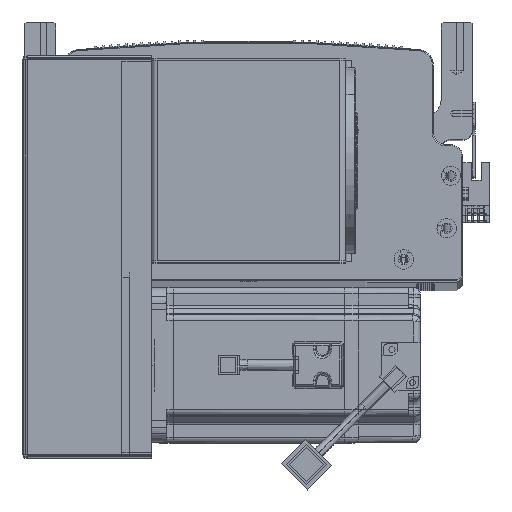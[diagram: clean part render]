
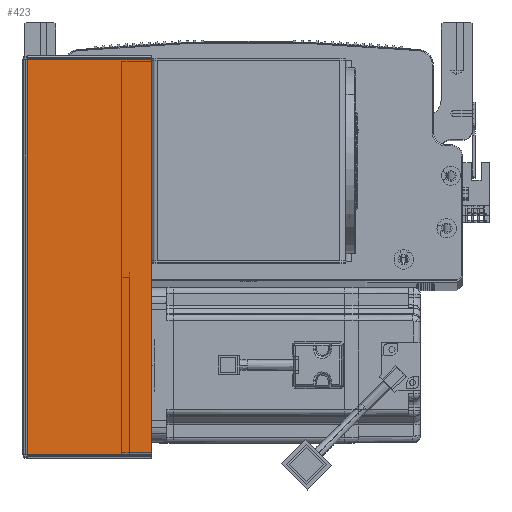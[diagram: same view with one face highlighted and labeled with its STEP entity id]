
A CAD part, top view. The second image highlights one B-rep face of the part: STEP entity #423.
In plain terms, the highlighted planar face has unit normal (0, 0, 1) as drawn and (0, -1, 0) by its records, which use the part's own axes.
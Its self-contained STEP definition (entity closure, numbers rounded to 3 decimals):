
#423 = ADVANCED_FACE ( 'NONE', ( #34897 ), #26515, .F. ) ;
#2393 = DIRECTION ( 'NONE',  ( 1., 0., 0. ) ) ;
#3172 = DIRECTION ( 'NONE',  ( 0., 0., 1. ) ) ;
#3579 = AXIS2_PLACEMENT_3D ( 'NONE', #62961, #54730, #62045 ) ;
#4257 = CARTESIAN_POINT ( 'NONE',  ( 64.5, -1.5, -203.293 ) ) ;
#4382 = ORIENTED_EDGE ( 'NONE', *, *, #17354, .F. ) ;
#5321 = EDGE_LOOP ( 'NONE', ( #4382, #34869, #53869, #47908 ) ) ;
#6842 = CARTESIAN_POINT ( 'NONE',  ( 0.737, -1.5, -203.293 ) ) ;
#6866 = EDGE_CURVE ( 'NONE', #77926, #84701, #52098, .T. ) ;
#12136 = CARTESIAN_POINT ( 'NONE',  ( 64.5, -1.5, -0.707 ) ) ;
#17354 = EDGE_CURVE ( 'NONE', #77926, #48294, #50203, .T. ) ;
#17936 = LINE ( 'NONE', #52354, #67207 ) ;
#23392 = EDGE_CURVE ( 'NONE', #84701, #39401, #17936, .T. ) ;
#24911 = CARTESIAN_POINT ( 'NONE',  ( 0.737, -1.5, 0. ) ) ;
#26515 = PLANE ( 'NONE',  #3579 ) ;
#27310 = VECTOR ( 'NONE', #91151, 1000. ) ;
#29969 = LINE ( 'NONE', #31070, #51791 ) ;
#31070 = CARTESIAN_POINT ( 'NONE',  ( 0., -1.5, -0.707 ) ) ;
#32574 = VECTOR ( 'NONE', #2393, 1000. ) ;
#33835 = CARTESIAN_POINT ( 'NONE',  ( 0., -1.5, -203.293 ) ) ;
#34869 = ORIENTED_EDGE ( 'NONE', *, *, #6866, .T. ) ;
#34897 = FACE_OUTER_BOUND ( 'NONE', #5321, .T. ) ;
#39401 = VERTEX_POINT ( 'NONE', #12136 ) ;
#47056 = DIRECTION ( 'NONE',  ( 1., 0., 0. ) ) ;
#47908 = ORIENTED_EDGE ( 'NONE', *, *, #53999, .F. ) ;
#48294 = VERTEX_POINT ( 'NONE', #69053 ) ;
#50203 = LINE ( 'NONE', #24911, #27310 ) ;
#51791 = VECTOR ( 'NONE', #47056, 1000. ) ;
#52098 = LINE ( 'NONE', #33835, #32574 ) ;
#52354 = CARTESIAN_POINT ( 'NONE',  ( 64.5, -1.5, 0. ) ) ;
#53869 = ORIENTED_EDGE ( 'NONE', *, *, #23392, .T. ) ;
#53999 = EDGE_CURVE ( 'NONE', #48294, #39401, #29969, .T. ) ;
#54730 = DIRECTION ( 'NONE',  ( 0., 1., 0. ) ) ;
#62045 = DIRECTION ( 'NONE',  ( -1., 0., 0. ) ) ;
#62961 = CARTESIAN_POINT ( 'NONE',  ( 0., -1.5, 0. ) ) ;
#67207 = VECTOR ( 'NONE', #3172, 1000. ) ;
#69053 = CARTESIAN_POINT ( 'NONE',  ( 0.737, -1.5, -0.707 ) ) ;
#77926 = VERTEX_POINT ( 'NONE', #6842 ) ;
#84701 = VERTEX_POINT ( 'NONE', #4257 ) ;
#91151 = DIRECTION ( 'NONE',  ( 0., 0., 1. ) ) ;
